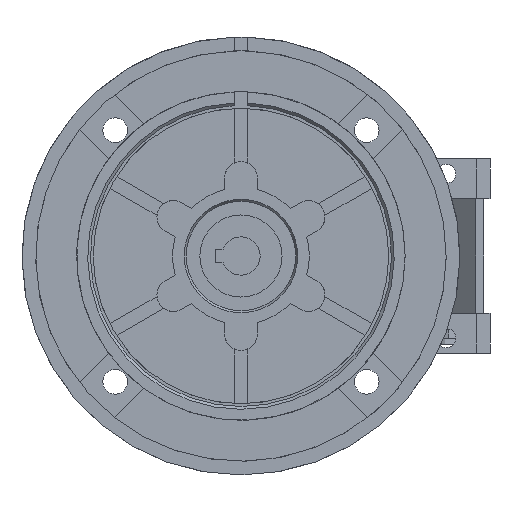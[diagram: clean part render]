
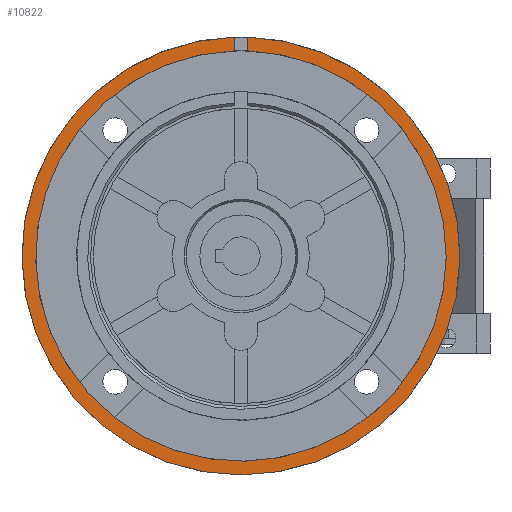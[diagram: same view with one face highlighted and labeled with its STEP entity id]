
A CAD part, left-side view. The second image highlights one B-rep face of the part: STEP entity #10822.
In plain terms, the highlighted planar face has unit normal (-1, 0, 0).
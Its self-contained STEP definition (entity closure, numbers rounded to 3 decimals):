
#1356 = CARTESIAN_POINT ( 'NONE',  ( -66., 37.5, 90. ) ) ;
#1576 = VERTEX_POINT ( 'NONE', #7639 ) ;
#1623 = FACE_OUTER_BOUND ( 'NONE', #11609, .T. ) ;
#1825 = CARTESIAN_POINT ( 'NONE',  ( -66., 40., 0. ) ) ;
#1854 = CARTESIAN_POINT ( 'NONE',  ( -66., 37.5, 79.961 ) ) ;
#1908 = DIRECTION ( 'NONE',  ( 0., 0., 1. ) ) ;
#2033 = AXIS2_PLACEMENT_3D ( 'NONE', #14237, #6566, #17343 ) ;
#2833 = ORIENTED_EDGE ( 'NONE', *, *, #18394, .T. ) ;
#2920 = DIRECTION ( 'NONE',  ( 0., 0., -1. ) ) ;
#3060 = VERTEX_POINT ( 'NONE', #1854 ) ;
#3098 = EDGE_CURVE ( 'NONE', #1576, #6223, #9510, .T. ) ;
#3394 = DIRECTION ( 'NONE',  ( 0., 0., -1. ) ) ;
#4699 = CARTESIAN_POINT ( 'NONE',  ( -66., 42.5, 79.961 ) ) ;
#5353 = ORIENTED_EDGE ( 'NONE', *, *, #8224, .T. ) ;
#6223 = VERTEX_POINT ( 'NONE', #4699 ) ;
#6566 = DIRECTION ( 'NONE',  ( -1., 0., 0. ) ) ;
#7475 = DIRECTION ( 'NONE',  ( 1., 0., 0. ) ) ;
#7639 = CARTESIAN_POINT ( 'NONE',  ( -66., 42.5, 74.958 ) ) ;
#7751 = CARTESIAN_POINT ( 'NONE',  ( -66., 37.5, 74.958 ) ) ;
#8151 = AXIS2_PLACEMENT_3D ( 'NONE', #16692, #7475, #18243 ) ;
#8224 = EDGE_CURVE ( 'NONE', #12480, #1576, #11921, .T. ) ;
#8520 = ORIENTED_EDGE ( 'NONE', *, *, #3098, .T. ) ;
#8713 = CIRCLE ( 'NONE', #8151, 80. ) ;
#9407 = AXIS2_PLACEMENT_3D ( 'NONE', #1825, #12672, #3394 ) ;
#9510 = LINE ( 'NONE', #12766, #13099 ) ;
#9646 = EDGE_CURVE ( 'NONE', #3060, #6223, #8713, .T. ) ;
#10822 = ADVANCED_FACE ( 'NONE', ( #1623 ), #15743, .T. ) ;
#10930 = VECTOR ( 'NONE', #2920, 1000. ) ;
#11609 = EDGE_LOOP ( 'NONE', ( #19811, #2833, #5353, #8520 ) ) ;
#11921 = CIRCLE ( 'NONE', #9407, 75. ) ;
#12480 = VERTEX_POINT ( 'NONE', #7751 ) ;
#12672 = DIRECTION ( 'NONE',  ( 1., 0., 0. ) ) ;
#12766 = CARTESIAN_POINT ( 'NONE',  ( -66., 42.5, 40. ) ) ;
#13099 = VECTOR ( 'NONE', #1908, 1000. ) ;
#14237 = CARTESIAN_POINT ( 'NONE',  ( -66., 120.704, -80.704 ) ) ;
#15743 = PLANE ( 'NONE',  #2033 ) ;
#16692 = CARTESIAN_POINT ( 'NONE',  ( -66., 40., 0. ) ) ;
#17343 = DIRECTION ( 'NONE',  ( 0., 0., -1. ) ) ;
#18243 = DIRECTION ( 'NONE',  ( 0., 0., -1. ) ) ;
#18394 = EDGE_CURVE ( 'NONE', #3060, #12480, #19066, .T. ) ;
#19066 = LINE ( 'NONE', #1356, #10930 ) ;
#19811 = ORIENTED_EDGE ( 'NONE', *, *, #9646, .F. ) ;
